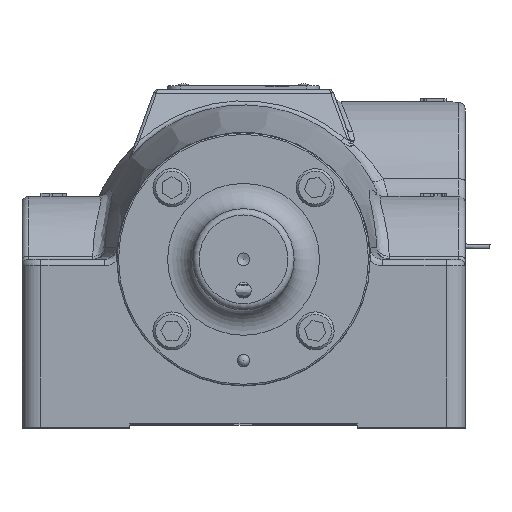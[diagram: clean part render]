
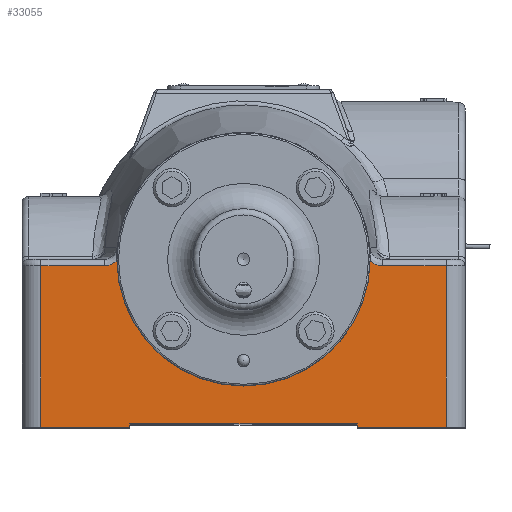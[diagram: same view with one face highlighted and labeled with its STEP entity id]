
A CAD part, top view. The second image highlights one B-rep face of the part: STEP entity #33055.
In plain terms, the highlighted planar face has unit normal (0, 0, 1).
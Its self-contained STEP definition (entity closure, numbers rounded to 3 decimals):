
#1157=PLANE('',#35322);
#1928=LINE('',#48832,#3763);
#1929=LINE('',#48834,#3764);
#1930=LINE('',#48836,#3765);
#1931=LINE('',#48851,#3766);
#1932=LINE('',#48853,#3767);
#1933=LINE('',#48855,#3768);
#1934=LINE('',#48857,#3769);
#1935=LINE('',#48859,#3770);
#1936=LINE('',#48860,#3771);
#3763=VECTOR('',#39369,1.);
#3764=VECTOR('',#39370,1.);
#3765=VECTOR('',#39371,1.);
#3766=VECTOR('',#39374,1.);
#3767=VECTOR('',#39375,1.);
#3768=VECTOR('',#39376,1.);
#3769=VECTOR('',#39377,1.);
#3770=VECTOR('',#39378,1.);
#3771=VECTOR('',#39379,1.);
#5768=FACE_OUTER_BOUND('',#7877,.T.);
#7877=EDGE_LOOP('',(#21360,#21361,#21362,#21363,#21364,#21365,#21366,#21367,
#21368,#21369,#21370,#21371));
#10154=CIRCLE('',#35323,3.178);
#11854=B_SPLINE_CURVE_WITH_KNOTS('',3,(#48838,#48839,#48840,#48841),
 .UNSPECIFIED.,.F.,.F.,(4,4),(0.356,0.703),
 .UNSPECIFIED.);
#11855=B_SPLINE_CURVE_WITH_KNOTS('',3,(#48845,#48846,#48847,#48848,#48849),
 .UNSPECIFIED.,.F.,.F.,(4,1,4),(0.,0.291,0.347),
 .UNSPECIFIED.);
#13139=VERTEX_POINT('',#48830);
#13140=VERTEX_POINT('',#48831);
#13141=VERTEX_POINT('',#48833);
#13142=VERTEX_POINT('',#48835);
#13143=VERTEX_POINT('',#48837);
#13144=VERTEX_POINT('',#48842);
#13145=VERTEX_POINT('',#48844);
#13146=VERTEX_POINT('',#48850);
#13147=VERTEX_POINT('',#48852);
#13148=VERTEX_POINT('',#48854);
#13149=VERTEX_POINT('',#48856);
#13150=VERTEX_POINT('',#48858);
#16217=EDGE_CURVE('',#13139,#13140,#1928,.T.);
#16218=EDGE_CURVE('',#13141,#13140,#1929,.T.);
#16219=EDGE_CURVE('',#13142,#13141,#1930,.T.);
#16220=EDGE_CURVE('',#13143,#13142,#11854,.T.);
#16221=EDGE_CURVE('',#13144,#13143,#10154,.T.);
#16222=EDGE_CURVE('',#13145,#13144,#11855,.T.);
#16223=EDGE_CURVE('',#13146,#13145,#1931,.T.);
#16224=EDGE_CURVE('',#13147,#13146,#1932,.T.);
#16225=EDGE_CURVE('',#13147,#13148,#1933,.T.);
#16226=EDGE_CURVE('',#13148,#13149,#1934,.T.);
#16227=EDGE_CURVE('',#13149,#13150,#1935,.T.);
#16228=EDGE_CURVE('',#13150,#13139,#1936,.T.);
#21360=ORIENTED_EDGE('',*,*,#16217,.T.);
#21361=ORIENTED_EDGE('',*,*,#16218,.F.);
#21362=ORIENTED_EDGE('',*,*,#16219,.F.);
#21363=ORIENTED_EDGE('',*,*,#16220,.F.);
#21364=ORIENTED_EDGE('',*,*,#16221,.F.);
#21365=ORIENTED_EDGE('',*,*,#16222,.F.);
#21366=ORIENTED_EDGE('',*,*,#16223,.F.);
#21367=ORIENTED_EDGE('',*,*,#16224,.F.);
#21368=ORIENTED_EDGE('',*,*,#16225,.T.);
#21369=ORIENTED_EDGE('',*,*,#16226,.T.);
#21370=ORIENTED_EDGE('',*,*,#16227,.T.);
#21371=ORIENTED_EDGE('',*,*,#16228,.T.);
#33055=ADVANCED_FACE('',(#5768),#1157,.T.);
#35322=AXIS2_PLACEMENT_3D('',#48829,#39367,#39368);
#35323=AXIS2_PLACEMENT_3D('',#48843,#39372,#39373);
#39367=DIRECTION('center_axis',(0.,0.,1.));
#39368=DIRECTION('ref_axis',(1.,0.,0.));
#39369=DIRECTION('',(1.,0.,0.));
#39370=DIRECTION('',(0.,-1.,0.));
#39371=DIRECTION('',(1.,0.,0.));
#39372=DIRECTION('center_axis',(0.,0.,1.));
#39373=DIRECTION('ref_axis',(-1.,0.,0.));
#39374=DIRECTION('',(1.,0.,0.));
#39375=DIRECTION('',(0.,1.,0.));
#39376=DIRECTION('',(1.,0.,0.));
#39377=DIRECTION('',(0.,1.,0.));
#39378=DIRECTION('',(1.,0.,0.));
#39379=DIRECTION('',(0.,-1.,0.));
#48829=CARTESIAN_POINT('Origin',(0.,-4.286,8.652));
#48830=CARTESIAN_POINT('',(2.858,-4.207,8.652));
#48831=CARTESIAN_POINT('',(5.08,-4.207,8.652));
#48832=CARTESIAN_POINT('',(0.,-4.207,8.652));
#48833=CARTESIAN_POINT('',(5.08,-0.159,8.652));
#48834=CARTESIAN_POINT('',(5.08,-3.215,8.652));
#48835=CARTESIAN_POINT('',(3.497,-0.159,8.652));
#48836=CARTESIAN_POINT('',(0.,-0.159,8.652));
#48837=CARTESIAN_POINT('',(3.177,-0.037,8.652));
#48838=CARTESIAN_POINT('Ctrl Pts',(3.178,-0.037,
8.652));
#48839=CARTESIAN_POINT('Ctrl Pts',(3.265,-0.114,
8.652));
#48840=CARTESIAN_POINT('Ctrl Pts',(3.381,-0.159,
8.652));
#48841=CARTESIAN_POINT('Ctrl Pts',(3.497,-0.159,
8.652));
#48842=CARTESIAN_POINT('',(-3.177,-0.037,8.652));
#48843=CARTESIAN_POINT('Origin',(0.,0.,8.652));
#48844=CARTESIAN_POINT('',(-3.497,-0.159,8.652));
#48845=CARTESIAN_POINT('Ctrl Pts',(-3.497,-0.159,
8.652));
#48846=CARTESIAN_POINT('Ctrl Pts',(-3.4,-0.159,
8.652));
#48847=CARTESIAN_POINT('Ctrl Pts',(-3.283,-0.122,
8.652));
#48848=CARTESIAN_POINT('Ctrl Pts',(-3.192,-0.05,
8.652));
#48849=CARTESIAN_POINT('Ctrl Pts',(-3.178,-0.037,
8.652));
#48850=CARTESIAN_POINT('',(-5.08,-0.159,8.652));
#48851=CARTESIAN_POINT('',(0.,-0.159,8.652));
#48852=CARTESIAN_POINT('',(-5.08,-4.207,8.652));
#48853=CARTESIAN_POINT('',(-5.08,-3.215,8.652));
#48854=CARTESIAN_POINT('',(-2.858,-4.207,8.652));
#48855=CARTESIAN_POINT('',(0.,-4.207,8.652));
#48856=CARTESIAN_POINT('',(-2.858,-4.128,8.652));
#48857=CARTESIAN_POINT('',(-2.858,-4.247,8.652));
#48858=CARTESIAN_POINT('',(2.858,-4.128,8.652));
#48859=CARTESIAN_POINT('',(0.,-4.128,8.652));
#48860=CARTESIAN_POINT('',(2.858,-4.247,8.652));
